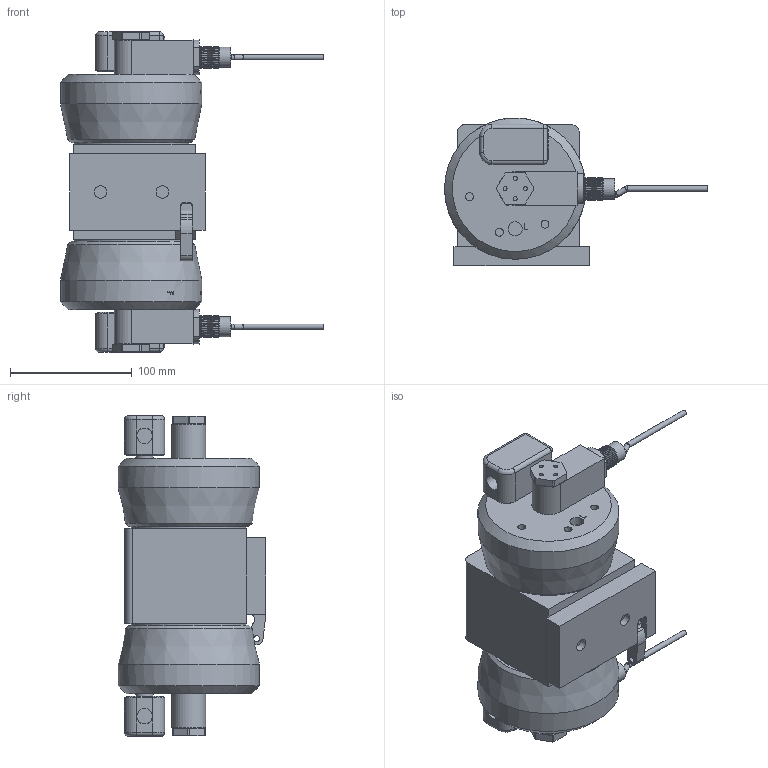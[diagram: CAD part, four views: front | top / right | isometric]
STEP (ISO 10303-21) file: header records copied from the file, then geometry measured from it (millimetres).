
FILE_DESCRIPTION (( 'STEP AP214' ), '1' );
FILE_NAME ('PXH030_solid model.STEP', '2013-07-24T18:36:45', ( '' ), ( '' ), 'SwSTEP 2.0', 'SolidWorks 2012', '' );
FILE_SCHEMA (( 'AUTOMOTIVE_DESIGN' ));
Length unit declared in the file: inch
Products named in the file (1): PXH030_solid model
Bounding box: 216.03 x 121.36 x 263.49 mm (x, y, z)
Volume: 2212663.6 mm3; surface area: 156796.5 mm2
Topology: 1 solids, 1 shells, 1169 faces, 2923 edges, 1898 vertices
Faces by surface type: plane 802, cylinder 144, bspline 113, cone 96, torus 10, sphere 4
Full cylindrical faces by diameter (mm): 3.175 x4, 3.251 x24, 3.264 x4, 4.445 x8, 4.902 x1, 6.528 x9, 10.312 x2, 11.43 x1, 11.509 x2, 12.725 x2, 14.656 x2, 15.939 x1, 16.408 x2, 16.7 x1, 18.923 x1, 22.225 x2, 22.25 x2, 25.19 x2, 36.601 x1, 94.412 x2, 116.078 x2
Entity records: 41223 total; most frequent: CARTESIAN_POINT 12501, ORIENTED_EDGE 5480, DIRECTION 5071, EDGE_CURVE 2740, VECTOR 2045, LINE 2045, VERTEX_POINT 1881, AXIS2_PLACEMENT_3D 1513
